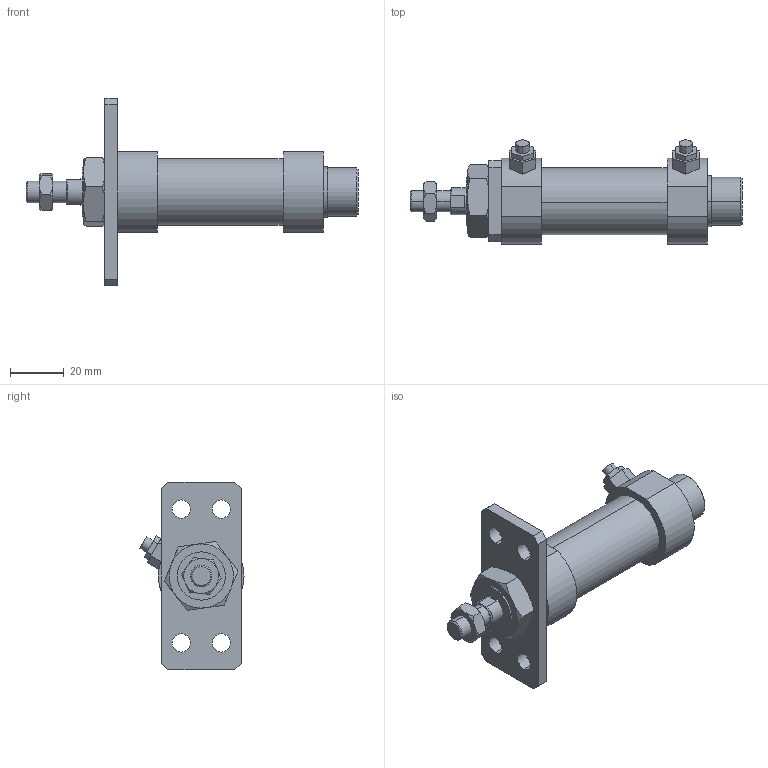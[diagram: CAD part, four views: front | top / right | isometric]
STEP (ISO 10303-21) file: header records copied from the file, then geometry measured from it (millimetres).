
FILE_DESCRIPTION (( 'STEP AP203' ), '1' );
FILE_NAME ('JG2-20-15-A.STEP', '2016-04-19T00:32:50', ( '' ), ( '' ), 'SwSTEP 2.0', 'SolidWorks 2014', '' );
FILE_SCHEMA (( 'CONFIG_CONTROL_DESIGN' ));
Length unit declared in the file: millimetre
Products named in the file (7): JG2-20B; JG2-20-15-A; J#2-20-A; M18x1.5-8mm; M8x1.25-5mm; 20-15; JG2-20A
Assembly tree (6 placements, depth 2):
  JG2-20-15-A
    JG2-20B
    20-15
    JG2-20A
    M8x1.25-5mm
    M18x1.5-8mm
    J#2-20-A
Bounding box: 124 x 38.9 x 70 mm (x, y, z)
Volume: 64293.5 mm3; surface area: 21004.4 mm2
Topology: 6 solids, 6 shells, 156 faces, 356 edges, 224 vertices
Faces by surface type: plane 78, cylinder 40, torus 24, cone 14
Entity records: 5527 total; most frequent: CARTESIAN_POINT 1293, DIRECTION 740, ORIENTED_EDGE 704, EDGE_CURVE 352, AXIS2_PLACEMENT_3D 287, VERTEX_POINT 224, EDGE_LOOP 186, LINE 166
